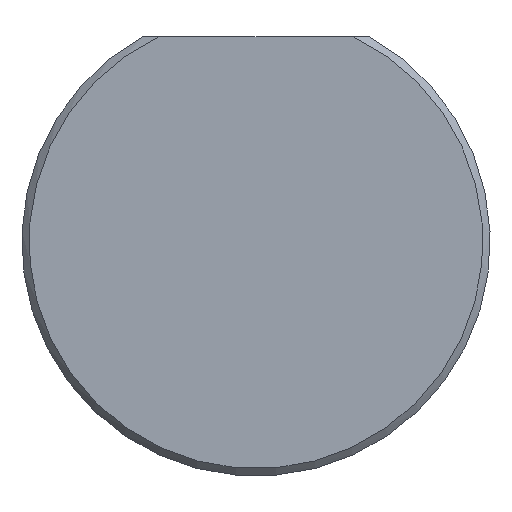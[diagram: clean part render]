
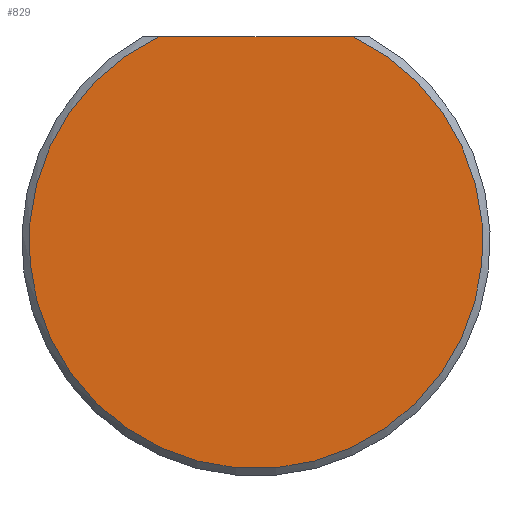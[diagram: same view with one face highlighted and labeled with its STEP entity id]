
A CAD part, front view. The second image highlights one B-rep face of the part: STEP entity #829.
In plain terms, the highlighted planar face has unit normal (0, -1, 0).
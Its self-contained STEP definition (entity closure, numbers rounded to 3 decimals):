
#14 = CARTESIAN_POINT ( 'NONE',  ( 0., 0., 0. ) ) ;
#74 = CARTESIAN_POINT ( 'NONE',  ( 0., 0., 0. ) ) ;
#87 = DIRECTION ( 'NONE',  ( 0., 0., 1. ) ) ;
#346 = DIRECTION ( 'NONE',  ( 0., 1., 0. ) ) ;
#679 = EDGE_CURVE ( 'NONE', #2883, #1935, #1589, .T. ) ;
#829 = ADVANCED_FACE ( 'NONE', ( #2524 ), #3055, .F. ) ;
#938 = EDGE_LOOP ( 'NONE', ( #1537, #2284 ) ) ;
#1224 = EDGE_CURVE ( 'NONE', #1935, #2883, #1727, .T. ) ;
#1242 = CARTESIAN_POINT ( 'NONE',  ( 0., 0., 7. ) ) ;
#1537 = ORIENTED_EDGE ( 'NONE', *, *, #1224, .T. ) ;
#1578 = CARTESIAN_POINT ( 'NONE',  ( 3.326, 0., 7. ) ) ;
#1589 = CIRCLE ( 'NONE', #2211, 7.75 ) ;
#1727 = LINE ( 'NONE', #1242, #2407 ) ;
#1935 = VERTEX_POINT ( 'NONE', #1578 ) ;
#1975 = CARTESIAN_POINT ( 'NONE',  ( -3.326, 0., 7. ) ) ;
#1980 = DIRECTION ( 'NONE',  ( 0., -1., 0. ) ) ;
#2146 = AXIS2_PLACEMENT_3D ( 'NONE', #74, #346, #87 ) ;
#2211 = AXIS2_PLACEMENT_3D ( 'NONE', #14, #1980, #2242 ) ;
#2242 = DIRECTION ( 'NONE',  ( 0., 0., 1. ) ) ;
#2284 = ORIENTED_EDGE ( 'NONE', *, *, #679, .T. ) ;
#2407 = VECTOR ( 'NONE', #2492, 1000. ) ;
#2492 = DIRECTION ( 'NONE',  ( -1., 0., 0. ) ) ;
#2524 = FACE_OUTER_BOUND ( 'NONE', #938, .T. ) ;
#2883 = VERTEX_POINT ( 'NONE', #1975 ) ;
#3055 = PLANE ( 'NONE',  #2146 ) ;
